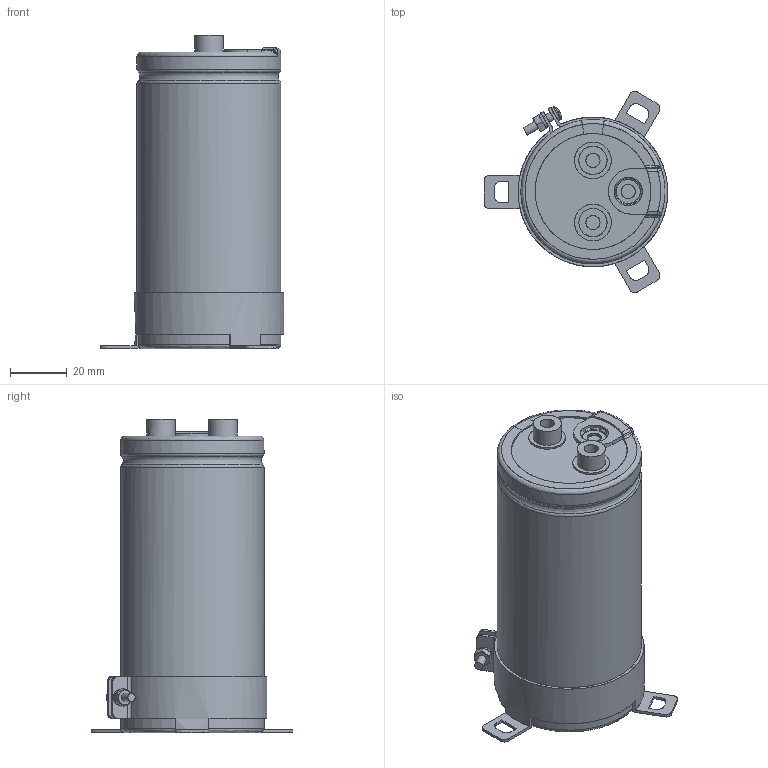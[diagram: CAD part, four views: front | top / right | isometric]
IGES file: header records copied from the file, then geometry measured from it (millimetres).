
Start section: JAMA-IS VERSION  1.0
Bounding box: 65 x 71.22 x 111 mm (x, y, z)
Surface area: 64809.7 mm2 (no closed solid volume)
Topology: 0 solids, 0 shells, 298 faces, 4625 edges, 4595 vertices
Faces by surface type: bspline 298
